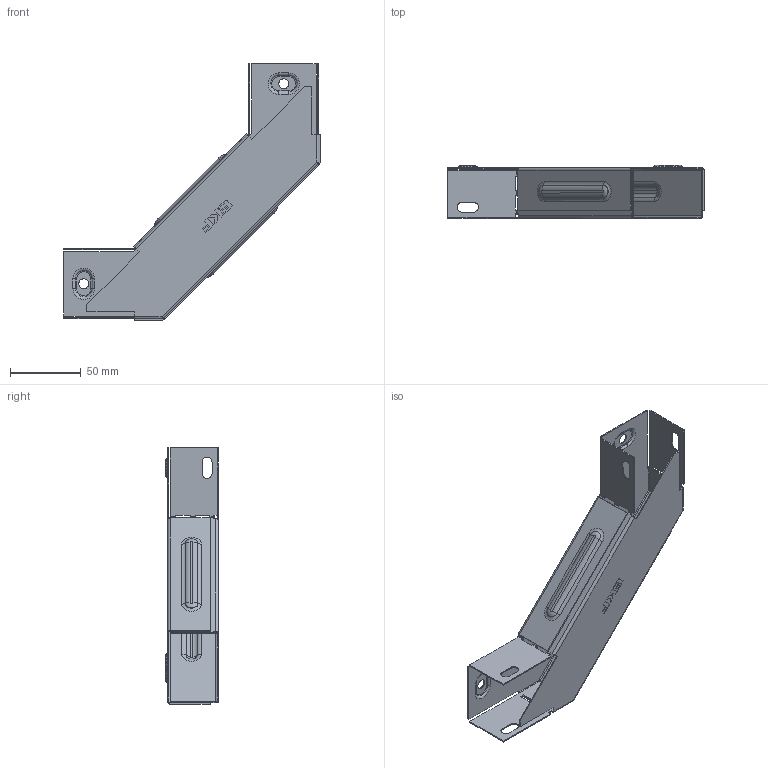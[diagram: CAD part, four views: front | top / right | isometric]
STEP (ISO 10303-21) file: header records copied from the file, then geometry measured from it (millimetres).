
FILE_DESCRIPTION (( 'STEP AP214' ), '1' );
FILE_NAME ('g903550_捘.STEP', '2019-06-10T09:30:05', ( '砐錪賧瘔蠈錪 Windows' ), ( '' ), 'SwSTEP 2.0', 'SolidWorks 2018', '' );
FILE_SCHEMA (( 'AUTOMOTIVE_DESIGN' ));
Length unit declared in the file: millimetre
Products named in the file (1): g903550_捘
Bounding box: 180.8 x 37.3 x 180.8 mm (x, y, z)
Volume: 37420.9 mm3; surface area: 95508.4 mm2
Topology: 2 solids, 2 shells, 445 faces, 1195 edges, 770 vertices
Faces by surface type: plane 268, cylinder 103, torus 48, bspline 26
Entity records: 15140 total; most frequent: CARTESIAN_POINT 3887, ORIENTED_EDGE 2390, DIRECTION 2233, EDGE_CURVE 1195, LINE 869, VECTOR 869, VERTEX_POINT 770, AXIS2_PLACEMENT_3D 682
